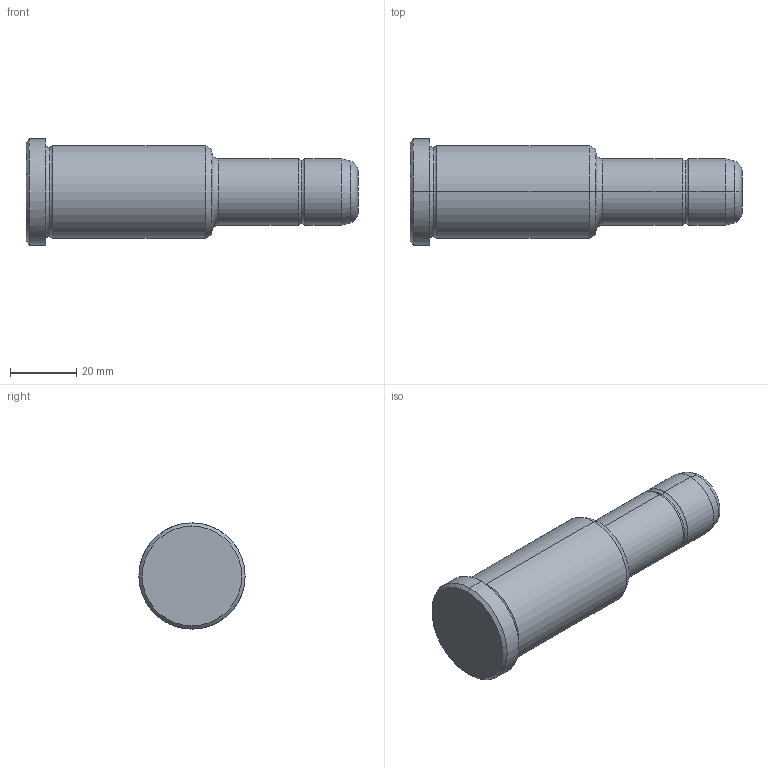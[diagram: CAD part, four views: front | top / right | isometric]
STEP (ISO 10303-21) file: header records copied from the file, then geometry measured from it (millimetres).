
FILE_DESCRIPTION(('CATIA V5 STEP Exchange'),'2;1');
FILE_NAME('C:\Users\Utente\Desktop\IO LAVORO\3D X SITO CF\X SITO\PLASTICA\351\351-20X56X100.stp','2021-08-27T12:49:57+00:00',('none'),('none'),'CATIA Version 5 Release 20 GA (IN-10)','CATIA V5 STEP AP203','none');
FILE_SCHEMA(('CONFIG_CONTROL_DESIGN'));
Length unit declared in the file: millimetre
Products named in the file (1): 351-20X56X100
Bounding box: 100 x 32 x 32 mm (x, y, z)
Volume: 48986.9 mm3; surface area: 9093.4 mm2
Topology: 1 solids, 1 shells, 30 faces, 86 edges, 60 vertices
Faces by surface type: torus 12, cylinder 8, cone 6, plane 4
Entity records: 1112 total; most frequent: CARTESIAN_POINT 289, ORIENTED_EDGE 172, DIRECTION 138, AXIS2_PLACEMENT_3D 95, EDGE_CURVE 86, CIRCLE 64, VERTEX_POINT 60, EDGE_LOOP 32
